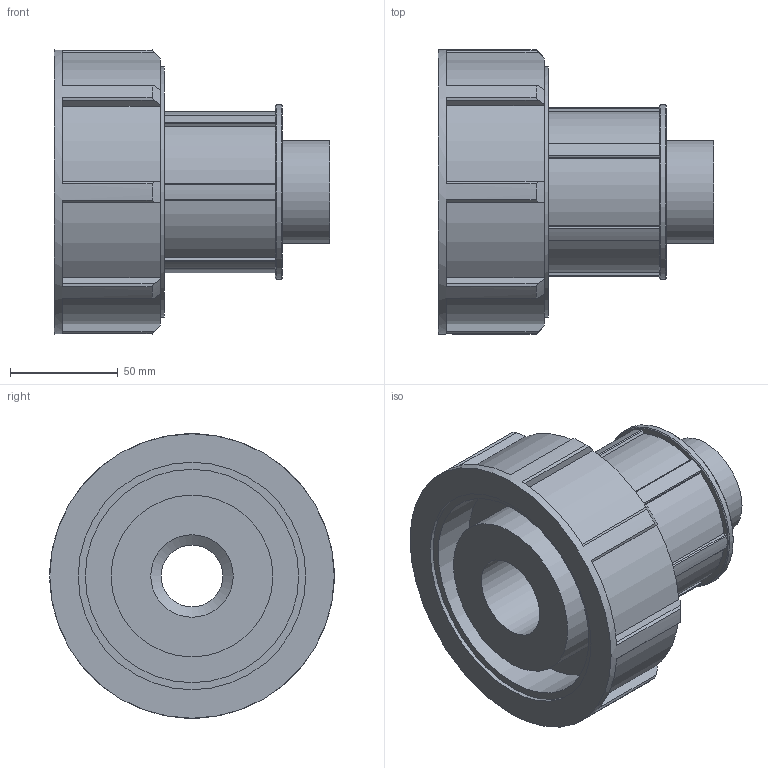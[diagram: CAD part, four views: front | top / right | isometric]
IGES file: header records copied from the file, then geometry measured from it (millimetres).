
Global section: file name: 072500075015_182500075015.ipt; native system: Autodesk Inventor 2015; preprocessor: unknown; author: KIM; date: 20170608.042208; units: millimetre
Bounding box: 128 x 132 x 132 mm (x, y, z)
Volume: 669177.9 mm3; surface area: 106750.8 mm2
Topology: 1 solids, 1 shells, 115 faces, 322 edges, 217 vertices
Faces by surface type: plane 74, cylinder 25, cone 10, revolution 6
Full cylindrical faces by diameter (mm): 47.803 x1, 75 x1, 81.265 x1, 116.16 x1, 132 x1
